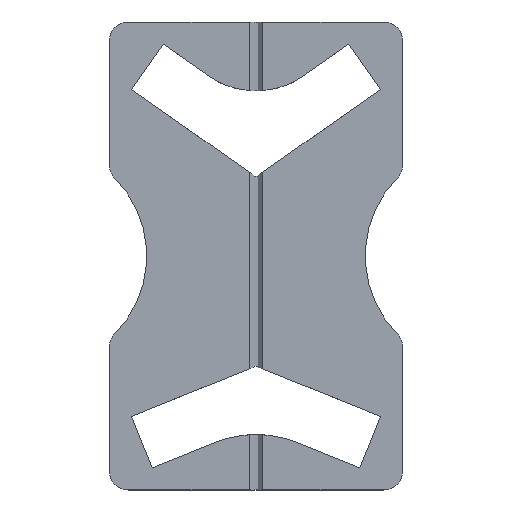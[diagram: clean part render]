
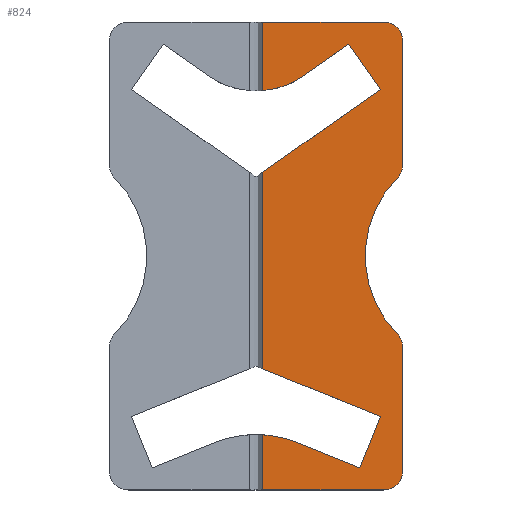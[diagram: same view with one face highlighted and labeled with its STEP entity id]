
A CAD part, top view. The second image highlights one B-rep face of the part: STEP entity #824.
In plain terms, the highlighted planar face has unit normal (0, 0, 1).
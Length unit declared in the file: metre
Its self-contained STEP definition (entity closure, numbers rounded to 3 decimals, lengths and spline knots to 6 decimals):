
#28=CIRCLE('',#880,0.015);
#29=CIRCLE('',#881,0.02);
#30=CIRCLE('',#882,0.0035);
#31=CIRCLE('',#883,0.0035);
#32=CIRCLE('',#884,0.02);
#33=CIRCLE('',#885,0.0035);
#34=CIRCLE('',#886,0.0035);
#56=ORIENTED_EDGE('',*,*,#308,.T.);
#57=ORIENTED_EDGE('',*,*,#309,.T.);
#58=ORIENTED_EDGE('',*,*,#310,.F.);
#59=ORIENTED_EDGE('',*,*,#311,.F.);
#60=ORIENTED_EDGE('',*,*,#312,.F.);
#61=ORIENTED_EDGE('',*,*,#313,.T.);
#62=ORIENTED_EDGE('',*,*,#314,.T.);
#63=ORIENTED_EDGE('',*,*,#315,.F.);
#64=ORIENTED_EDGE('',*,*,#316,.F.);
#65=ORIENTED_EDGE('',*,*,#317,.T.);
#66=ORIENTED_EDGE('',*,*,#318,.T.);
#67=ORIENTED_EDGE('',*,*,#319,.T.);
#68=ORIENTED_EDGE('',*,*,#320,.T.);
#69=ORIENTED_EDGE('',*,*,#321,.F.);
#70=ORIENTED_EDGE('',*,*,#322,.T.);
#71=ORIENTED_EDGE('',*,*,#323,.T.);
#72=ORIENTED_EDGE('',*,*,#324,.T.);
#73=ORIENTED_EDGE('',*,*,#325,.F.);
#74=ORIENTED_EDGE('',*,*,#326,.T.);
#75=ORIENTED_EDGE('',*,*,#327,.F.);
#308=EDGE_CURVE('',#434,#435,#518,.T.);
#309=EDGE_CURVE('',#435,#436,#28,.T.);
#310=EDGE_CURVE('',#437,#436,#519,.T.);
#311=EDGE_CURVE('',#438,#437,#520,.T.);
#312=EDGE_CURVE('',#439,#438,#521,.T.);
#313=EDGE_CURVE('',#439,#440,#522,.T.);
#314=EDGE_CURVE('',#440,#441,#523,.T.);
#315=EDGE_CURVE('',#442,#441,#524,.T.);
#316=EDGE_CURVE('',#443,#442,#525,.T.);
#317=EDGE_CURVE('',#443,#444,#29,.T.);
#318=EDGE_CURVE('',#444,#445,#526,.T.);
#319=EDGE_CURVE('',#445,#446,#527,.T.);
#320=EDGE_CURVE('',#446,#447,#30,.T.);
#321=EDGE_CURVE('',#448,#447,#528,.T.);
#322=EDGE_CURVE('',#448,#449,#31,.T.);
#323=EDGE_CURVE('',#449,#450,#32,.T.);
#324=EDGE_CURVE('',#450,#451,#33,.T.);
#325=EDGE_CURVE('',#452,#451,#529,.T.);
#326=EDGE_CURVE('',#452,#453,#34,.T.);
#327=EDGE_CURVE('',#434,#453,#530,.T.);
#434=VERTEX_POINT('',#1200);
#435=VERTEX_POINT('',#1201);
#436=VERTEX_POINT('',#1203);
#437=VERTEX_POINT('',#1205);
#438=VERTEX_POINT('',#1207);
#439=VERTEX_POINT('',#1209);
#440=VERTEX_POINT('',#1211);
#441=VERTEX_POINT('',#1213);
#442=VERTEX_POINT('',#1215);
#443=VERTEX_POINT('',#1217);
#444=VERTEX_POINT('',#1219);
#445=VERTEX_POINT('',#1221);
#446=VERTEX_POINT('',#1223);
#447=VERTEX_POINT('',#1225);
#448=VERTEX_POINT('',#1227);
#449=VERTEX_POINT('',#1229);
#450=VERTEX_POINT('',#1231);
#451=VERTEX_POINT('',#1233);
#452=VERTEX_POINT('',#1235);
#453=VERTEX_POINT('',#1237);
#518=LINE('',#1199,#612);
#519=LINE('',#1204,#613);
#520=LINE('',#1206,#614);
#521=LINE('',#1208,#615);
#522=LINE('',#1210,#616);
#523=LINE('',#1212,#617);
#524=LINE('',#1214,#618);
#525=LINE('',#1216,#619);
#526=LINE('',#1220,#620);
#527=LINE('',#1222,#621);
#528=LINE('',#1226,#622);
#529=LINE('',#1234,#623);
#530=LINE('',#1238,#624);
#612=VECTOR('',#957,1.);
#613=VECTOR('',#960,1.);
#614=VECTOR('',#961,1.);
#615=VECTOR('',#962,1.);
#616=VECTOR('',#963,1.);
#617=VECTOR('',#964,1.);
#618=VECTOR('',#965,1.);
#619=VECTOR('',#966,1.);
#620=VECTOR('',#969,1.);
#621=VECTOR('',#970,1.);
#622=VECTOR('',#973,1.);
#623=VECTOR('',#980,1.);
#624=VECTOR('',#983,1.);
#706=EDGE_LOOP('',(#56,#57,#58,#59,#60,#61,#62,#63,#64,#65,#66,#67,#68,
#69,#70,#71,#72,#73,#74,#75));
#750=FACE_BOUND('',#706,.T.);
#794=PLANE('',#879);
#824=ADVANCED_FACE('',(#750),#794,.T.);
#879=AXIS2_PLACEMENT_3D('',#1198,#955,#956);
#880=AXIS2_PLACEMENT_3D('',#1202,#958,#959);
#881=AXIS2_PLACEMENT_3D('',#1218,#967,#968);
#882=AXIS2_PLACEMENT_3D('',#1224,#971,#972);
#883=AXIS2_PLACEMENT_3D('',#1228,#974,#975);
#884=AXIS2_PLACEMENT_3D('',#1230,#976,#977);
#885=AXIS2_PLACEMENT_3D('',#1232,#978,#979);
#886=AXIS2_PLACEMENT_3D('',#1236,#981,#982);
#955=DIRECTION('',(0.,0.,1.));
#956=DIRECTION('',(1.,0.,0.));
#957=DIRECTION('',(0.,-1.,0.));
#958=DIRECTION('',(0.,0.,1.));
#959=DIRECTION('',(1.,0.,0.));
#960=DIRECTION('',(-0.819,-0.574,0.));
#961=DIRECTION('',(-0.574,0.819,0.));
#962=DIRECTION('',(0.819,0.574,0.));
#963=DIRECTION('',(0.,-1.,0.));
#964=DIRECTION('',(0.927,-0.375,0.));
#965=DIRECTION('',(0.375,0.927,0.));
#966=DIRECTION('',(0.927,-0.375,0.));
#967=DIRECTION('',(0.,0.,1.));
#968=DIRECTION('',(1.,0.,0.));
#969=DIRECTION('',(0.,-1.,0.));
#970=DIRECTION('',(1.,0.,0.));
#971=DIRECTION('',(0.,0.,1.));
#972=DIRECTION('',(1.,0.,0.));
#973=DIRECTION('',(0.,-1.,0.));
#974=DIRECTION('',(0.,0.,1.));
#975=DIRECTION('',(1.,0.,0.));
#976=DIRECTION('',(0.,0.,-1.));
#977=DIRECTION('',(1.,0.,0.));
#978=DIRECTION('',(0.,0.,1.));
#979=DIRECTION('',(1.,0.,0.));
#980=DIRECTION('',(0.,-1.,0.));
#981=DIRECTION('',(0.,0.,1.));
#982=DIRECTION('',(1.,0.,0.));
#983=DIRECTION('',(1.,0.,0.));
#1198=CARTESIAN_POINT('',(0.,0.,0.0006));
#1199=CARTESIAN_POINT('',(0.0012,0.,0.0006));
#1200=CARTESIAN_POINT('',(0.0012,0.04225,0.0006));
#1201=CARTESIAN_POINT('',(0.0012,0.029871,0.0006));
#1202=CARTESIAN_POINT('',(0.,0.044823,0.0006));
#1203=CARTESIAN_POINT('',(0.008604,0.032536,0.0006));
#1204=CARTESIAN_POINT('',(0.008382,0.032381,0.0006));
#1205=CARTESIAN_POINT('',(0.016764,0.03825,0.0006));
#1206=CARTESIAN_POINT('',(0.019632,0.034154,0.0006));
#1207=CARTESIAN_POINT('',(0.0225,0.030058,0.0006));
#1208=CARTESIAN_POINT('',(0.01125,0.022181,0.0006));
#1209=CARTESIAN_POINT('',(0.0012,0.015144,0.0006));
#1210=CARTESIAN_POINT('',(0.0012,0.,0.0006));
#1211=CARTESIAN_POINT('',(0.0012,-0.020372,0.0006));
#1212=CARTESIAN_POINT('',(0.01125,-0.024433,0.0006));
#1213=CARTESIAN_POINT('',(0.0225,-0.028978,0.0006));
#1214=CARTESIAN_POINT('',(0.020627,-0.033614,0.0006));
#1215=CARTESIAN_POINT('',(0.018754,-0.03825,0.0006));
#1216=CARTESIAN_POINT('',(0.009377,-0.034461,0.0006));
#1217=CARTESIAN_POINT('',(0.007492,-0.0337,0.0006));
#1218=CARTESIAN_POINT('',(0.,-0.052244,0.0006));
#1219=CARTESIAN_POINT('',(0.0012,-0.03228,0.0006));
#1220=CARTESIAN_POINT('',(0.0012,0.,0.0006));
#1221=CARTESIAN_POINT('',(0.0012,-0.04225,0.0006));
#1222=CARTESIAN_POINT('',(0.,-0.04225,0.0006));
#1223=CARTESIAN_POINT('',(0.023,-0.04225,0.0006));
#1224=CARTESIAN_POINT('',(0.023,-0.03875,0.0006));
#1225=CARTESIAN_POINT('',(0.0265,-0.03875,0.0006));
#1226=CARTESIAN_POINT('',(0.0265,0.,0.0006));
#1227=CARTESIAN_POINT('',(0.0265,-0.016505,0.0006));
#1228=CARTESIAN_POINT('',(0.023,-0.016505,0.0006));
#1229=CARTESIAN_POINT('',(0.025492,-0.014046,0.0006));
#1230=CARTESIAN_POINT('',(0.039729,0.,0.0006));
#1231=CARTESIAN_POINT('',(0.025492,0.014046,0.0006));
#1232=CARTESIAN_POINT('',(0.023,0.016505,0.0006));
#1233=CARTESIAN_POINT('',(0.0265,0.016505,0.0006));
#1234=CARTESIAN_POINT('',(0.0265,0.,0.0006));
#1235=CARTESIAN_POINT('',(0.0265,0.03875,0.0006));
#1236=CARTESIAN_POINT('',(0.023,0.03875,0.0006));
#1237=CARTESIAN_POINT('',(0.023,0.04225,0.0006));
#1238=CARTESIAN_POINT('',(0.,0.04225,0.0006));
